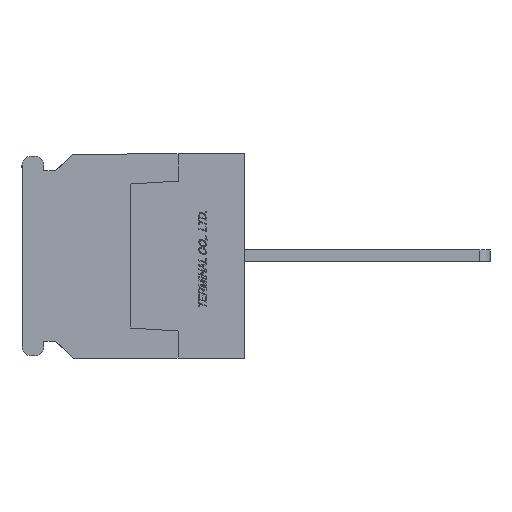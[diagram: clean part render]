
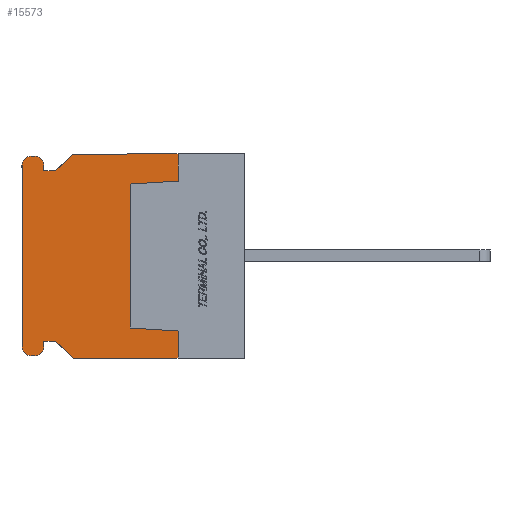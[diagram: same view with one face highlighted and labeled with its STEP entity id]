
A CAD part, left-side view. The second image highlights one B-rep face of the part: STEP entity #15573.
In plain terms, the highlighted planar face has unit normal (-1, 0, 0).
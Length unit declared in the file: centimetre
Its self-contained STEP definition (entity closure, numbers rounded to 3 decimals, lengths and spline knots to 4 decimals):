
#950=CIRCLE('',#16751,0.075);
#951=CIRCLE('',#16754,0.075);
#952=CIRCLE('',#16757,0.075);
#953=CIRCLE('',#16760,0.075);
#2152=VERTEX_POINT('',#24553);
#2153=VERTEX_POINT('',#24555);
#2154=VERTEX_POINT('',#24559);
#2155=VERTEX_POINT('',#24563);
#2156=VERTEX_POINT('',#24567);
#2157=VERTEX_POINT('',#24571);
#2176=VERTEX_POINT('',#24624);
#2177=VERTEX_POINT('',#24628);
#2178=VERTEX_POINT('',#24632);
#2179=VERTEX_POINT('',#24636);
#2180=VERTEX_POINT('',#24640);
#2181=VERTEX_POINT('',#24644);
#2182=VERTEX_POINT('',#24648);
#2183=VERTEX_POINT('',#24652);
#2184=VERTEX_POINT('',#24656);
#2185=VERTEX_POINT('',#24660);
#2186=VERTEX_POINT('',#24664);
#2187=VERTEX_POINT('',#24668);
#2188=VERTEX_POINT('',#24672);
#2189=VERTEX_POINT('',#24676);
#3791=VECTOR('',#19599,1.);
#3794=VECTOR('',#19603,1.);
#3796=VECTOR('',#19606,1.);
#3798=VECTOR('',#19609,1.);
#3800=VECTOR('',#19612,1.);
#3823=VECTOR('',#19650,1.);
#3825=VECTOR('',#19653,1.);
#3827=VECTOR('',#19656,1.);
#3829=VECTOR('',#19659,1.);
#3832=VECTOR('',#19667,1.);
#3835=VECTOR('',#19675,1.);
#3838=VECTOR('',#19683,1.);
#3841=VECTOR('',#19691,1.);
#3843=VECTOR('',#19694,1.);
#3845=VECTOR('',#19697,1.);
#3846=VECTOR('',#19699,1.);
#5507=LINE('',#24554,#3791);
#5510=LINE('',#24560,#3794);
#5512=LINE('',#24564,#3796);
#5514=LINE('',#24568,#3798);
#5516=LINE('',#24572,#3800);
#5539=LINE('',#24625,#3823);
#5541=LINE('',#24629,#3825);
#5543=LINE('',#24633,#3827);
#5545=LINE('',#24637,#3829);
#5548=LINE('',#24645,#3832);
#5551=LINE('',#24653,#3835);
#5554=LINE('',#24661,#3838);
#5557=LINE('',#24669,#3841);
#5559=LINE('',#24673,#3843);
#5561=LINE('',#24677,#3845);
#5562=LINE('',#24679,#3846);
#7731=EDGE_CURVE('',#2153,#2152,#5507,.T.);
#7734=EDGE_CURVE('',#2152,#2154,#5510,.T.);
#7736=EDGE_CURVE('',#2154,#2155,#5512,.T.);
#7738=EDGE_CURVE('',#2155,#2156,#5514,.T.);
#7740=EDGE_CURVE('',#2156,#2157,#5516,.T.);
#7767=EDGE_CURVE('',#2176,#2157,#5539,.T.);
#7769=EDGE_CURVE('',#2177,#2176,#5541,.T.);
#7771=EDGE_CURVE('',#2178,#2177,#5543,.T.);
#7773=EDGE_CURVE('',#2179,#2178,#5545,.T.);
#7775=EDGE_CURVE('',#2180,#2179,#950,.T.);
#7777=EDGE_CURVE('',#2181,#2180,#5548,.T.);
#7779=EDGE_CURVE('',#2182,#2181,#951,.T.);
#7781=EDGE_CURVE('',#2183,#2182,#5551,.T.);
#7783=EDGE_CURVE('',#2184,#2183,#952,.T.);
#7785=EDGE_CURVE('',#2185,#2184,#5554,.T.);
#7787=EDGE_CURVE('',#2186,#2185,#953,.T.);
#7789=EDGE_CURVE('',#2187,#2186,#5557,.T.);
#7791=EDGE_CURVE('',#2188,#2187,#5559,.T.);
#7793=EDGE_CURVE('',#2189,#2188,#5561,.T.);
#7794=EDGE_CURVE('',#2153,#2189,#5562,.T.);
#11958=ORIENTED_EDGE('',*,*,#7740,.T.);
#11959=ORIENTED_EDGE('',*,*,#7767,.F.);
#11960=ORIENTED_EDGE('',*,*,#7769,.F.);
#11961=ORIENTED_EDGE('',*,*,#7771,.F.);
#11962=ORIENTED_EDGE('',*,*,#7773,.F.);
#11963=ORIENTED_EDGE('',*,*,#7775,.F.);
#11964=ORIENTED_EDGE('',*,*,#7777,.F.);
#11965=ORIENTED_EDGE('',*,*,#7779,.F.);
#11966=ORIENTED_EDGE('',*,*,#7781,.F.);
#11967=ORIENTED_EDGE('',*,*,#7783,.F.);
#11968=ORIENTED_EDGE('',*,*,#7785,.F.);
#11969=ORIENTED_EDGE('',*,*,#7787,.F.);
#11970=ORIENTED_EDGE('',*,*,#7789,.F.);
#11971=ORIENTED_EDGE('',*,*,#7791,.F.);
#11972=ORIENTED_EDGE('',*,*,#7793,.F.);
#11973=ORIENTED_EDGE('',*,*,#7794,.F.);
#11974=ORIENTED_EDGE('',*,*,#7731,.T.);
#11975=ORIENTED_EDGE('',*,*,#7734,.T.);
#11976=ORIENTED_EDGE('',*,*,#7736,.T.);
#11977=ORIENTED_EDGE('',*,*,#7738,.T.);
#13720=EDGE_LOOP('',(#11958,#11959,#11960,#11961,#11962,#11963,#11964,#11965,
#11966,#11967,#11968,#11969,#11970,#11971,#11972,#11973,#11974,#11975,#11976,
#11977));
#14688=FACE_BOUND('',#13720,.T.);
#15573=ADVANCED_FACE('',(#14688),#26645,.F.);
#16751=AXIS2_PLACEMENT_3D('',#24641,#19663,#19664);
#16754=AXIS2_PLACEMENT_3D('',#24649,#19671,#19672);
#16757=AXIS2_PLACEMENT_3D('',#24657,#19679,#19680);
#16760=AXIS2_PLACEMENT_3D('',#24665,#19687,#19688);
#16765=AXIS2_PLACEMENT_3D('',#24680,#19700,$);
#19599=DIRECTION('',(0.,0.,1.));
#19603=DIRECTION('',(0.,0.998,0.062));
#19606=DIRECTION('',(0.,0.,1.));
#19609=DIRECTION('',(0.,-0.998,0.062));
#19612=DIRECTION('',(0.,0.,1.));
#19650=DIRECTION('',(0.,-1.,0.));
#19653=DIRECTION('',(0.,-0.731,0.682));
#19656=DIRECTION('',(0.,-1.,0.));
#19659=DIRECTION('',(0.,0.,-1.));
#19663=DIRECTION('',(1.,0.,0.));
#19664=DIRECTION('',(0.,0.,-0.075));
#19667=DIRECTION('',(0.,-1.,0.));
#19671=DIRECTION('',(1.,0.,0.));
#19672=DIRECTION('',(0.,0.,-0.075));
#19675=DIRECTION('',(0.,0.,1.));
#19679=DIRECTION('',(1.,0.,0.));
#19680=DIRECTION('',(0.,0.,-0.075));
#19683=DIRECTION('',(0.,1.,0.));
#19687=DIRECTION('',(1.,0.,0.));
#19688=DIRECTION('',(0.,0.,-0.075));
#19691=DIRECTION('',(0.,0.,-1.));
#19694=DIRECTION('',(0.,1.,0.));
#19697=DIRECTION('',(0.,0.731,0.682));
#19699=DIRECTION('',(0.,1.,0.));
#19700=DIRECTION('',(1.,0.,0.));
#24553=CARTESIAN_POINT('',(0.,0.55,-0.625));
#24554=CARTESIAN_POINT('',(0.,0.55,-0.3687));
#24555=CARTESIAN_POINT('',(0.,0.55,-0.85));
#24559=CARTESIAN_POINT('',(0.,0.95,-0.6));
#24560=CARTESIAN_POINT('',(0.,0.8629,-0.6054));
#24563=CARTESIAN_POINT('',(0.,0.95,0.6));
#24564=CARTESIAN_POINT('',(0.,0.95,0.));
#24567=CARTESIAN_POINT('',(0.,0.55,0.625));
#24568=CARTESIAN_POINT('',(0.,0.8629,0.6054));
#24571=CARTESIAN_POINT('',(0.,0.55,0.85));
#24572=CARTESIAN_POINT('',(0.,0.55,0.3687));
#24624=CARTESIAN_POINT('',(0.,1.42,0.85));
#24625=CARTESIAN_POINT('',(0.,1.42,0.85));
#24628=CARTESIAN_POINT('',(0.,1.57,0.71));
#24629=CARTESIAN_POINT('',(0.,1.57,0.71));
#24632=CARTESIAN_POINT('',(0.,1.67,0.71));
#24633=CARTESIAN_POINT('',(0.,1.67,0.71));
#24636=CARTESIAN_POINT('',(0.,1.67,0.755));
#24637=CARTESIAN_POINT('',(0.,1.67,0.755));
#24640=CARTESIAN_POINT('',(0.,1.745,0.83));
#24641=CARTESIAN_POINT('',(0.,1.745,0.755));
#24644=CARTESIAN_POINT('',(0.,1.775,0.83));
#24645=CARTESIAN_POINT('',(0.,1.775,0.83));
#24648=CARTESIAN_POINT('',(0.,1.85,0.755));
#24649=CARTESIAN_POINT('',(0.,1.775,0.755));
#24652=CARTESIAN_POINT('',(0.,1.85,-0.755));
#24653=CARTESIAN_POINT('',(0.,1.85,-0.755));
#24656=CARTESIAN_POINT('',(0.,1.775,-0.83));
#24657=CARTESIAN_POINT('',(0.,1.775,-0.755));
#24660=CARTESIAN_POINT('',(0.,1.745,-0.83));
#24661=CARTESIAN_POINT('',(0.,1.745,-0.83));
#24664=CARTESIAN_POINT('',(0.,1.67,-0.755));
#24665=CARTESIAN_POINT('',(0.,1.745,-0.755));
#24668=CARTESIAN_POINT('',(0.,1.67,-0.71));
#24669=CARTESIAN_POINT('',(0.,1.67,-0.71));
#24672=CARTESIAN_POINT('',(0.,1.57,-0.71));
#24673=CARTESIAN_POINT('',(0.,1.57,-0.71));
#24676=CARTESIAN_POINT('',(0.,1.42,-0.85));
#24677=CARTESIAN_POINT('',(0.,1.42,-0.85));
#24679=CARTESIAN_POINT('',(0.,0.,-0.85));
#24680=CARTESIAN_POINT('',(0.,0.9383,0.));
#26645=PLANE('',#16765);
